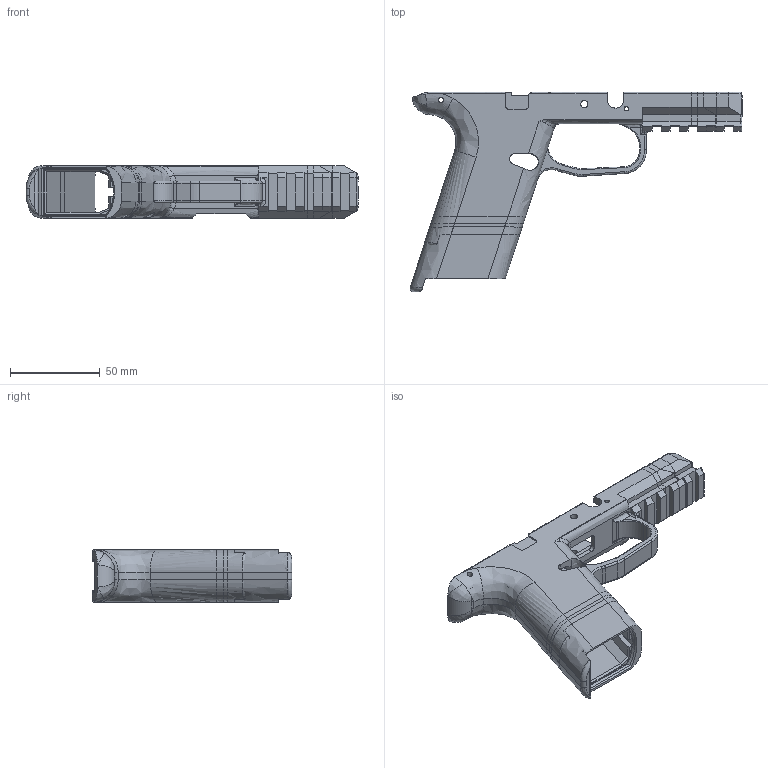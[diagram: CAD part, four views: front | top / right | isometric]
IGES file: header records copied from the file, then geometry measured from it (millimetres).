
Global section: file name: FNS-940; native system: unknown; preprocessor: unknown; author: unknown; organization: unknown; date: 20210528.012539; units: millimetre
Bounding box: 184.47 x 110.97 x 29 mm (x, y, z)
Volume: 93506.9 mm3; surface area: 54408.5 mm2
Topology: 7 solids, 7 shells, 553 faces, 1544 edges, 993 vertices
Faces by surface type: bspline 553
